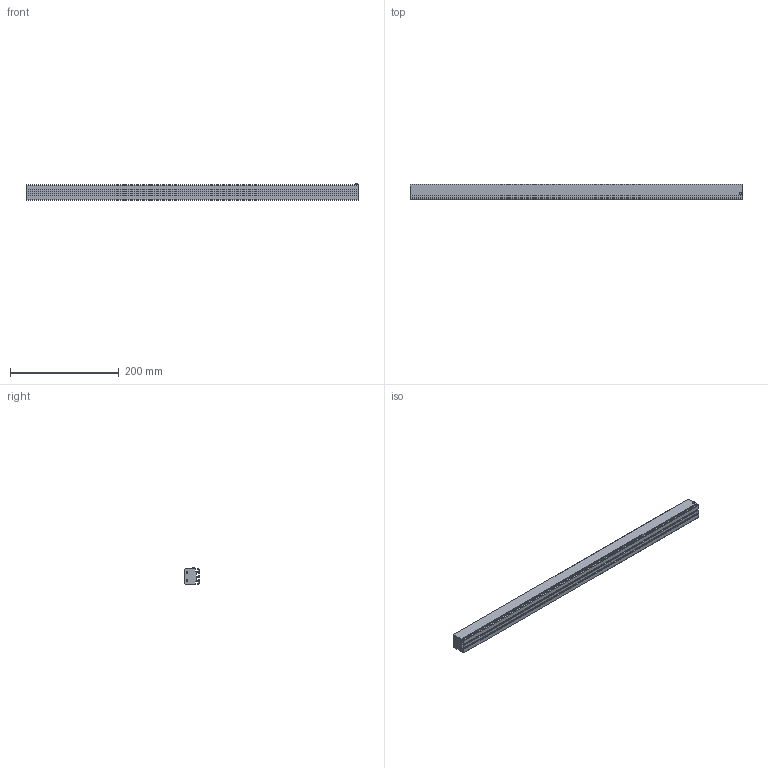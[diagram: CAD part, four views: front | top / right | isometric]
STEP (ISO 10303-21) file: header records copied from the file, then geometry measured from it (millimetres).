
FILE_DESCRIPTION (( 'STEP AP203' ), '1' );
FILE_NAME ('LRD-B4-610.STEP', '2022-08-22T06:59:45', ( 'TNT' ), ( '' ), 'SwSTEP 2.0', 'SolidWorks 2018', '' );
FILE_SCHEMA (( 'CONFIG_CONTROL_DESIGN' ));
Length unit declared in the file: millimetre
Products named in the file (1): LRD-B4-610
Bounding box: 610 x 27.7 x 30.6 mm (x, y, z)
Volume: 399653 mm3; surface area: 111001.1 mm2
Topology: 1 solids, 1 shells, 66 faces, 178 edges, 112 vertices
Faces by surface type: plane 48, cylinder 10, cone 8
Entity records: 2059 total; most frequent: CARTESIAN_POINT 349, ORIENTED_EDGE 340, DIRECTION 324, EDGE_CURVE 170, VECTOR 150, LINE 150, VERTEX_POINT 112, AXIS2_PLACEMENT_3D 87
